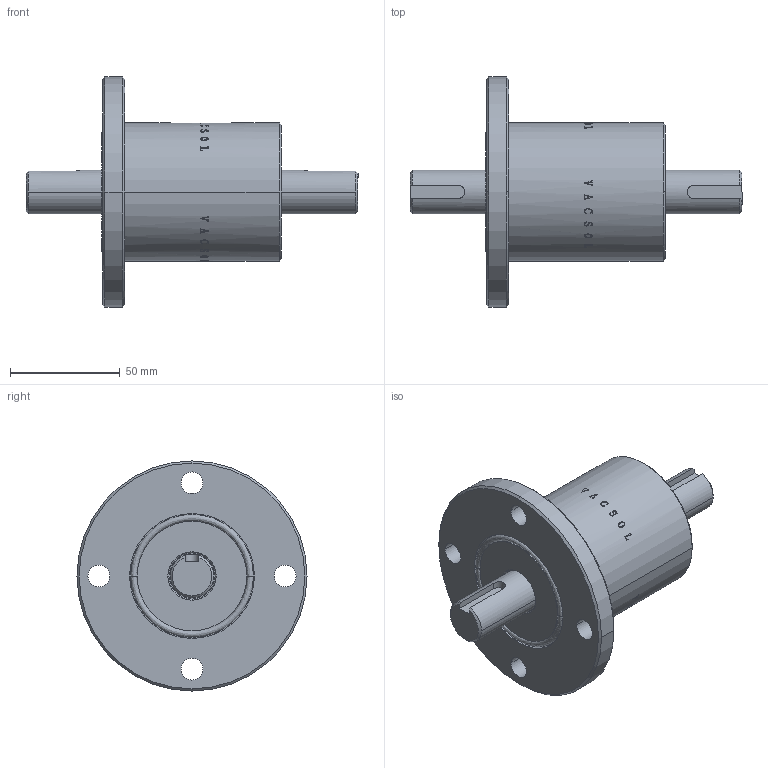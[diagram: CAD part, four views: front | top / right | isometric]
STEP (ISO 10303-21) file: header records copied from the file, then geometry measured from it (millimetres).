
FILE_DESCRIPTION (( 'STEP AP214' ), '1' );
FILE_NAME ('m20.STEP', '2011-08-20T02:14:36', ( 'founder' ), ( '' ), 'SwSTEP 2.0', 'SolidWorks 2008', '' );
FILE_SCHEMA (( 'AUTOMOTIVE_DESIGN' ));
Length unit declared in the file: millimetre
Products named in the file (1): m20
Bounding box: 151.5 x 105 x 105 mm (x, y, z)
Volume: 326470.5 mm3; surface area: 42273.4 mm2
Topology: 2 solids, 2 shells, 382 faces, 1046 edges, 696 vertices
Faces by surface type: bspline 199, plane 119, cylinder 51, cone 13
Entity records: 44644 total; most frequent: CARTESIAN_POINT 32264, ORIENTED_EDGE 2092, DIRECTION 1051, EDGE_CURVE 1046, VERTEX_POINT 696, B_SPLINE_CURVE_WITH_KNOTS 469, EDGE_LOOP 420, VECTOR 405
